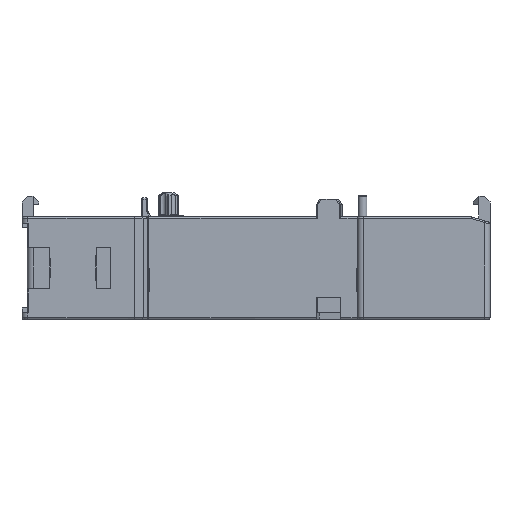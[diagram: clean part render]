
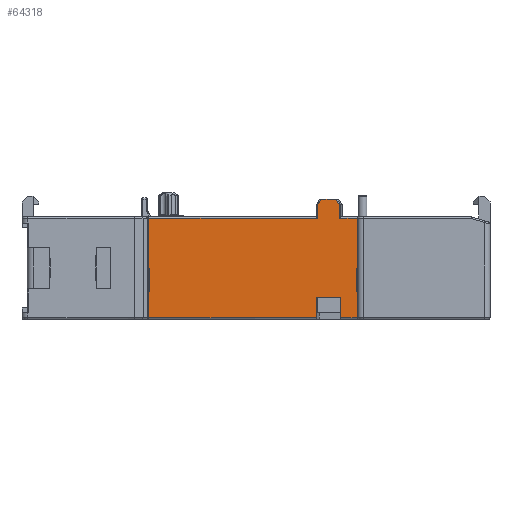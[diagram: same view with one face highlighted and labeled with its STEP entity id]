
A CAD part, front view. The second image highlights one B-rep face of the part: STEP entity #64318.
In plain terms, the highlighted planar face has unit normal (0, -1, 0).
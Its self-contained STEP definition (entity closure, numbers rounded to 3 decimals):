
#547=DIRECTION('',(0.,0.,1.));
#548=VECTOR('',#547,4.55);
#549=CARTESIAN_POINT('',(9.9,-46.,0.3));
#550=LINE('',#549,#548);
#563=DIRECTION('',(-1.,0.,0.));
#564=VECTOR('',#563,0.1);
#565=CARTESIAN_POINT('',(9.9,-46.,8.85));
#566=LINE('',#565,#564);
#11436=CARTESIAN_POINT('',(6.968,-46.,0.3));
#11446=CARTESIAN_POINT('',(2.805,-46.,0.3));
#15172=DIRECTION('',(0.,0.,-1.));
#15173=VECTOR('',#15172,2.246);
#15174=CARTESIAN_POINT('',(2.992,-46.,19.646));
#15175=LINE('',#15174,#15173);
#15196=DIRECTION('',(1.,0.,0.));
#15197=VECTOR('',#15196,0.1);
#15198=CARTESIAN_POINT('',(-26.1,-46.,4.85));
#15199=LINE('',#15198,#15197);
#15200=DIRECTION('',(0.,0.,-1.));
#15201=VECTOR('',#15200,8.55);
#15202=CARTESIAN_POINT('',(-26.1,-46.,17.4));
#15203=LINE('',#15202,#15201);
#15204=DIRECTION('',(1.,0.,0.));
#15205=VECTOR('',#15204,29.092);
#15206=CARTESIAN_POINT('',(-26.1,-46.,17.4));
#15207=LINE('',#15206,#15205);
#15208=DIRECTION('',(-0.506,0.,-0.863));
#15209=VECTOR('',#15208,1.221);
#15210=CARTESIAN_POINT('',(3.61,-46.,20.7));
#15211=LINE('',#15210,#15209);
#15212=DIRECTION('',(-0.506,0.,0.863));
#15213=VECTOR('',#15212,1.221);
#15214=CARTESIAN_POINT('',(6.851,-46.,19.646));
#15215=LINE('',#15214,#15213);
#15216=DIRECTION('',(1.,0.,0.));
#15217=VECTOR('',#15216,3.049);
#15218=CARTESIAN_POINT('',(6.851,-46.,17.4));
#15219=LINE('',#15218,#15217);
#15220=DIRECTION('',(0.,0.,-1.));
#15221=VECTOR('',#15220,8.55);
#15222=CARTESIAN_POINT('',(9.9,-46.,17.4));
#15223=LINE('',#15222,#15221);
#15224=DIRECTION('',(0.,0.,-1.));
#15225=VECTOR('',#15224,4.);
#15226=CARTESIAN_POINT('',(9.8,-46.,8.85));
#15227=LINE('',#15226,#15225);
#15228=DIRECTION('',(1.,0.,0.));
#15229=VECTOR('',#15228,0.1);
#15230=CARTESIAN_POINT('',(9.8,-46.,4.85));
#15231=LINE('',#15230,#15229);
#15232=DIRECTION('',(-1.,0.,0.));
#15233=VECTOR('',#15232,2.932);
#15234=CARTESIAN_POINT('',(9.9,-46.,0.3));
#15235=LINE('',#15234,#15233);
#15236=DIRECTION('',(0.,0.,1.));
#15237=VECTOR('',#15236,3.5);
#15238=CARTESIAN_POINT('',(6.968,-46.,0.3));
#15239=LINE('',#15238,#15237);
#15240=DIRECTION('',(-1.,0.,0.));
#15241=VECTOR('',#15240,4.163);
#15242=CARTESIAN_POINT('',(6.968,-46.,3.8));
#15243=LINE('',#15242,#15241);
#15244=DIRECTION('',(0.,0.,1.));
#15245=VECTOR('',#15244,3.5);
#15246=CARTESIAN_POINT('',(2.805,-46.,0.3));
#15247=LINE('',#15246,#15245);
#15248=DIRECTION('',(-1.,0.,0.));
#15249=VECTOR('',#15248,28.905);
#15250=CARTESIAN_POINT('',(2.805,-46.,0.3));
#15251=LINE('',#15250,#15249);
#15252=DIRECTION('',(0.,0.,1.));
#15253=VECTOR('',#15252,4.55);
#15254=CARTESIAN_POINT('',(-26.1,-46.,0.3));
#15255=LINE('',#15254,#15253);
#15280=DIRECTION('',(0.,0.,-1.));
#15281=VECTOR('',#15280,4.);
#15282=CARTESIAN_POINT('',(-26.,-46.,8.85));
#15283=LINE('',#15282,#15281);
#15284=DIRECTION('',(-1.,0.,0.));
#15285=VECTOR('',#15284,0.1);
#15286=CARTESIAN_POINT('',(-26.,-46.,8.85));
#15287=LINE('',#15286,#15285);
#15413=CARTESIAN_POINT('',(3.61,-46.,20.7));
#15459=CARTESIAN_POINT('',(6.233,-46.,20.7));
#15464=DIRECTION('',(1.,0.,0.));
#15465=VECTOR('',#15464,2.623);
#15466=CARTESIAN_POINT('',(3.61,-46.,20.7));
#15467=LINE('',#15466,#15465);
#15621=DIRECTION('',(0.,0.,1.));
#15622=VECTOR('',#15621,2.246);
#15623=CARTESIAN_POINT('',(6.851,-46.,17.4));
#15624=LINE('',#15623,#15622);
#36453=CARTESIAN_POINT('',(-26.1,-46.,4.85));
#36454=VERTEX_POINT('',#36453);
#36455=CARTESIAN_POINT('',(9.9,-46.,4.85));
#36456=VERTEX_POINT('',#36455);
#36882=CARTESIAN_POINT('',(6.968,-46.,3.8));
#36883=CARTESIAN_POINT('',(2.805,-46.,3.8));
#36884=VERTEX_POINT('',#36882);
#36885=VERTEX_POINT('',#36883);
#37766=CARTESIAN_POINT('',(9.9,-46.,0.3));
#37767=VERTEX_POINT('',#37766);
#37771=VERTEX_POINT('',#11436);
#37800=VERTEX_POINT('',#11446);
#37804=CARTESIAN_POINT('',(-26.1,-46.,0.3));
#37805=VERTEX_POINT('',#37804);
#42647=CARTESIAN_POINT('',(9.8,-46.,8.85));
#42649=VERTEX_POINT('',#42647);
#42650=CARTESIAN_POINT('',(-26.,-46.,8.85));
#42652=VERTEX_POINT('',#42650);
#43370=CARTESIAN_POINT('',(-26.1,-46.,17.4));
#43371=VERTEX_POINT('',#43370);
#43374=CARTESIAN_POINT('',(2.992,-46.,17.4));
#43375=VERTEX_POINT('',#43374);
#43390=CARTESIAN_POINT('',(9.9,-46.,17.4));
#43391=VERTEX_POINT('',#43390);
#43939=VERTEX_POINT('',#15413);
#43940=CARTESIAN_POINT('',(2.992,-46.,19.646));
#43941=VERTEX_POINT('',#43940);
#43960=VERTEX_POINT('',#15459);
#43964=CARTESIAN_POINT('',(6.851,-46.,19.646));
#43965=VERTEX_POINT('',#43964);
#43968=CARTESIAN_POINT('',(6.851,-46.,17.4));
#43969=VERTEX_POINT('',#43968);
#44649=CARTESIAN_POINT('',(9.9,-46.,8.85));
#44651=VERTEX_POINT('',#44649);
#44826=CARTESIAN_POINT('',(-26.1,-46.,8.85));
#44827=VERTEX_POINT('',#44826);
#44832=CARTESIAN_POINT('',(9.8,-46.,4.85));
#44833=VERTEX_POINT('',#44832);
#44834=CARTESIAN_POINT('',(-26.,-46.,4.85));
#44835=VERTEX_POINT('',#44834);
#64276=CARTESIAN_POINT('',(-27.1,-46.,1.15));
#64277=DIRECTION('',(0.,-1.,0.));
#64278=DIRECTION('',(1.,0.,0.));
#64279=AXIS2_PLACEMENT_3D('',#64276,#64277,#64278);
#64280=PLANE('',#64279);
#64282=ORIENTED_EDGE('',*,*,#64281,.T.);
#64284=ORIENTED_EDGE('',*,*,#64283,.F.);
#64286=ORIENTED_EDGE('',*,*,#64285,.T.);
#64288=ORIENTED_EDGE('',*,*,#64287,.F.);
#64289=ORIENTED_EDGE('',*,*,#64238,.T.);
#64290=ORIENTED_EDGE('',*,*,#64265,.F.);
#64292=ORIENTED_EDGE('',*,*,#64291,.F.);
#64294=ORIENTED_EDGE('',*,*,#64293,.T.);
#64296=ORIENTED_EDGE('',*,*,#64295,.F.);
#64298=ORIENTED_EDGE('',*,*,#64297,.F.);
#64300=ORIENTED_EDGE('',*,*,#64299,.T.);
#64301=ORIENTED_EDGE('',*,*,#45551,.T.);
#64302=ORIENTED_EDGE('',*,*,#45579,.T.);
#64304=ORIENTED_EDGE('',*,*,#64303,.T.);
#64306=ORIENTED_EDGE('',*,*,#64305,.T.);
#64307=ORIENTED_EDGE('',*,*,#45558,.F.);
#64308=ORIENTED_EDGE('',*,*,#59587,.T.);
#64309=ORIENTED_EDGE('',*,*,#59605,.T.);
#64311=ORIENTED_EDGE('',*,*,#64310,.T.);
#64312=ORIENTED_EDGE('',*,*,#59640,.F.);
#64313=ORIENTED_EDGE('',*,*,#59670,.T.);
#64315=ORIENTED_EDGE('',*,*,#64314,.T.);
#64316=EDGE_LOOP('',(#64282,#64284,#64286,#64288,#64289,#64290,#64292,#64294,
#64296,#64298,#64300,#64301,#64302,#64304,#64306,#64307,#64308,#64309,#64311,
#64312,#64313,#64315));
#64317=FACE_OUTER_BOUND('',#64316,.F.);
#64318=ADVANCED_FACE('',(#64317),#64280,.T.);
#45551=EDGE_CURVE('',#43391,#44651,#15223,.T.);
#45558=EDGE_CURVE('',#37767,#36456,#550,.T.);
#45579=EDGE_CURVE('',#44651,#42649,#566,.T.);
#59587=EDGE_CURVE('',#37767,#37771,#15235,.T.);
#59605=EDGE_CURVE('',#37771,#36884,#15239,.T.);
#59640=EDGE_CURVE('',#37800,#36885,#15247,.T.);
#59670=EDGE_CURVE('',#37800,#37805,#15251,.T.);
#64238=EDGE_CURVE('',#43371,#43375,#15207,.T.);
#64265=EDGE_CURVE('',#43941,#43375,#15175,.T.);
#64281=EDGE_CURVE('',#36454,#44835,#15199,.T.);
#64283=EDGE_CURVE('',#42652,#44835,#15283,.T.);
#64285=EDGE_CURVE('',#42652,#44827,#15287,.T.);
#64287=EDGE_CURVE('',#43371,#44827,#15203,.T.);
#64291=EDGE_CURVE('',#43939,#43941,#15211,.T.);
#64293=EDGE_CURVE('',#43939,#43960,#15467,.T.);
#64295=EDGE_CURVE('',#43965,#43960,#15215,.T.);
#64297=EDGE_CURVE('',#43969,#43965,#15624,.T.);
#64299=EDGE_CURVE('',#43969,#43391,#15219,.T.);
#64303=EDGE_CURVE('',#42649,#44833,#15227,.T.);
#64305=EDGE_CURVE('',#44833,#36456,#15231,.T.);
#64310=EDGE_CURVE('',#36884,#36885,#15243,.T.);
#64314=EDGE_CURVE('',#37805,#36454,#15255,.T.);
